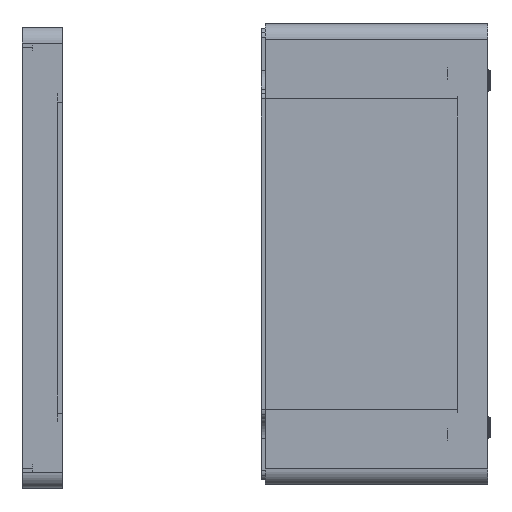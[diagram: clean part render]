
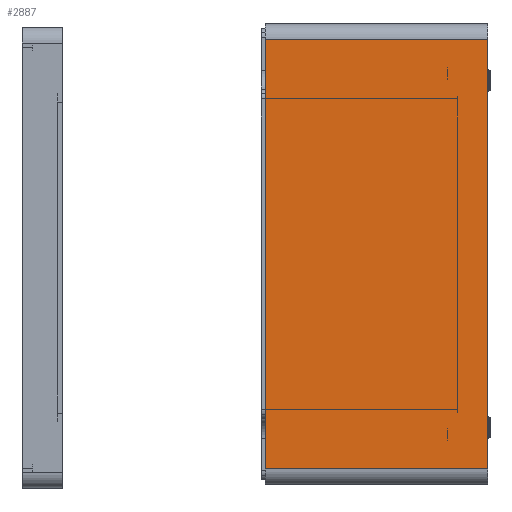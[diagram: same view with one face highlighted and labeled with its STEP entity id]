
A CAD part, left-side view. The second image highlights one B-rep face of the part: STEP entity #2887.
In plain terms, the highlighted planar face has unit normal (-1, 0, 0).
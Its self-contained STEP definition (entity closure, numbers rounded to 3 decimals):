
#835 = CARTESIAN_POINT ( 'NONE',  ( -300., 0., -107. ) ) ;
#2470 = DIRECTION ( 'NONE',  ( 0., 0., 1. ) ) ;
#2827 = CARTESIAN_POINT ( 'NONE',  ( -300., 111., -107. ) ) ;
#2887 = ADVANCED_FACE ( 'NONE', ( #26723 ), #8037, .F. ) ;
#3861 = VECTOR ( 'NONE', #4005, 1000. ) ;
#4005 = DIRECTION ( 'NONE',  ( 0., 0., 1. ) ) ;
#8037 = PLANE ( 'NONE',  #20546 ) ;
#9089 = EDGE_CURVE ( 'NONE', #19475, #16034, #25679, .T. ) ;
#9162 = LINE ( 'NONE', #25416, #21861 ) ;
#10970 = VECTOR ( 'NONE', #2470, 1000. ) ;
#11660 = EDGE_LOOP ( 'NONE', ( #24196, #21811, #20707, #25757 ) ) ;
#11701 = CARTESIAN_POINT ( 'NONE',  ( -300., 111., 107. ) ) ;
#12391 = EDGE_CURVE ( 'NONE', #18771, #19475, #27105, .T. ) ;
#14045 = LINE ( 'NONE', #23301, #10970 ) ;
#14170 = DIRECTION ( 'NONE',  ( 0., -1., 0. ) ) ;
#15158 = DIRECTION ( 'NONE',  ( 0., 0., -1. ) ) ;
#16034 = VERTEX_POINT ( 'NONE', #18422 ) ;
#17014 = CARTESIAN_POINT ( 'NONE',  ( -300., 111., -115. ) ) ;
#18422 = CARTESIAN_POINT ( 'NONE',  ( -300., 111., 107. ) ) ;
#18771 = VERTEX_POINT ( 'NONE', #835 ) ;
#19348 = EDGE_CURVE ( 'NONE', #21306, #18771, #9162, .T. ) ;
#19475 = VERTEX_POINT ( 'NONE', #21571 ) ;
#20546 = AXIS2_PLACEMENT_3D ( 'NONE', #17014, #22145, #15158 ) ;
#20707 = ORIENTED_EDGE ( 'NONE', *, *, #25859, .F. ) ;
#21105 = DIRECTION ( 'NONE',  ( 0., 1., 0. ) ) ;
#21306 = VERTEX_POINT ( 'NONE', #2827 ) ;
#21571 = CARTESIAN_POINT ( 'NONE',  ( -300., 0., 107. ) ) ;
#21811 = ORIENTED_EDGE ( 'NONE', *, *, #9089, .T. ) ;
#21861 = VECTOR ( 'NONE', #14170, 1000. ) ;
#22145 = DIRECTION ( 'NONE',  ( 1., 0., 0. ) ) ;
#23301 = CARTESIAN_POINT ( 'NONE',  ( -300., 111., -115. ) ) ;
#23879 = VECTOR ( 'NONE', #21105, 1000. ) ;
#24196 = ORIENTED_EDGE ( 'NONE', *, *, #12391, .T. ) ;
#24366 = CARTESIAN_POINT ( 'NONE',  ( -300., 0., -115. ) ) ;
#25416 = CARTESIAN_POINT ( 'NONE',  ( -300., 111., -107. ) ) ;
#25679 = LINE ( 'NONE', #11701, #23879 ) ;
#25757 = ORIENTED_EDGE ( 'NONE', *, *, #19348, .T. ) ;
#25859 = EDGE_CURVE ( 'NONE', #21306, #16034, #14045, .T. ) ;
#26723 = FACE_OUTER_BOUND ( 'NONE', #11660, .T. ) ;
#27105 = LINE ( 'NONE', #24366, #3861 ) ;
